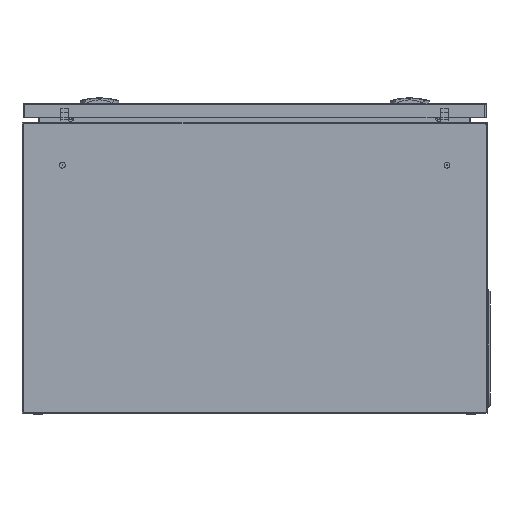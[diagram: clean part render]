
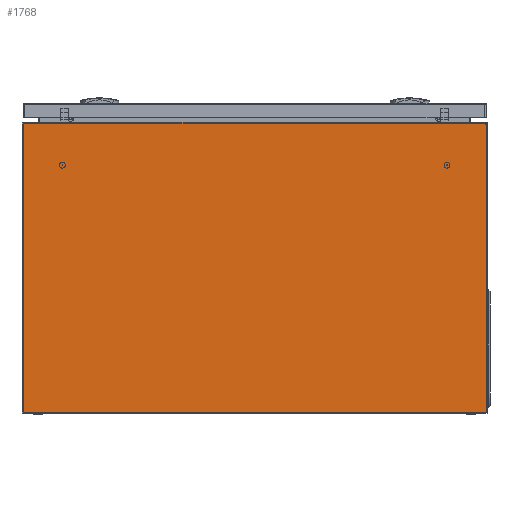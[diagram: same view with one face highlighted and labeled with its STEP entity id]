
A CAD part, left-side view. The second image highlights one B-rep face of the part: STEP entity #1768.
In plain terms, the highlighted planar face has unit normal (-1, 0, 0) as drawn and (1, 0, 0) by its records, which use the part's own axes.
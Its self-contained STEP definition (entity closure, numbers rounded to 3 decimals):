
#1768 = ADVANCED_FACE('',(#1769),#1889,.F.);
#1769 = FACE_BOUND('',#1770,.T.);
#1770 = EDGE_LOOP('',(#1771,#1781,#1789,#1797,#1808,#1816,#1827,#1835,
    #1843,#1851,#1859,#1867,#1875,#1883));
#1771 = ORIENTED_EDGE('',*,*,#1772,.F.);
#1772 = EDGE_CURVE('',#1773,#1775,#1777,.T.);
#1773 = VERTEX_POINT('',#1774);
#1774 = CARTESIAN_POINT('',(300.,371.1,300.));
#1775 = VERTEX_POINT('',#1776);
#1776 = CARTESIAN_POINT('',(300.,371.1,297.829));
#1777 = LINE('',#1778,#1779);
#1778 = CARTESIAN_POINT('',(300.,371.1,-3300.));
#1779 = VECTOR('',#1780,1.);
#1780 = DIRECTION('',(0.,0.,-1.));
#1781 = ORIENTED_EDGE('',*,*,#1782,.F.);
#1782 = EDGE_CURVE('',#1783,#1773,#1785,.T.);
#1783 = VERTEX_POINT('',#1784);
#1784 = CARTESIAN_POINT('',(300.,0.6,
    300.));
#1785 = LINE('',#1786,#1787);
#1786 = CARTESIAN_POINT('',(300.,0.6,
    300.));
#1787 = VECTOR('',#1788,1.);
#1788 = DIRECTION('',(0.,1.,0.));
#1789 = ORIENTED_EDGE('',*,*,#1790,.F.);
#1790 = EDGE_CURVE('',#1791,#1783,#1793,.T.);
#1791 = VERTEX_POINT('',#1792);
#1792 = CARTESIAN_POINT('',(300.,0.6,
    298.429));
#1793 = LINE('',#1794,#1795);
#1794 = CARTESIAN_POINT('',(300.,0.6,
    298.429));
#1795 = VECTOR('',#1796,1.);
#1796 = DIRECTION('',(0.,0.,1.));
#1797 = ORIENTED_EDGE('',*,*,#1798,.T.);
#1798 = EDGE_CURVE('',#1791,#1799,#1801,.T.);
#1799 = VERTEX_POINT('',#1800);
#1800 = CARTESIAN_POINT('',(300.,-1.5,
    298.165));
#1801 = B_SPLINE_CURVE_WITH_KNOTS('',3,(#1802,#1803,#1804,#1805,#1806,
    #1807),.UNSPECIFIED.,.F.,.F.,(4,2,4),(0.006,
    0.007,0.008),.UNSPECIFIED.);
#1802 = CARTESIAN_POINT('',(300.,0.6,
    298.429));
#1803 = CARTESIAN_POINT('',(300.,0.252,
    298.373));
#1804 = CARTESIAN_POINT('',(300.,-0.097,
    298.318));
#1805 = CARTESIAN_POINT('',(300.,-0.797,
    298.228));
#1806 = CARTESIAN_POINT('',(300.,-1.148,
    298.193));
#1807 = CARTESIAN_POINT('',(300.,-1.5,
    298.165));
#1808 = ORIENTED_EDGE('',*,*,#1809,.F.);
#1809 = EDGE_CURVE('',#1810,#1799,#1812,.T.);
#1810 = VERTEX_POINT('',#1811);
#1811 = CARTESIAN_POINT('',(300.,-1.5,
    -298.165));
#1812 = LINE('',#1813,#1814);
#1813 = CARTESIAN_POINT('',(300.,-1.5,-3300.));
#1814 = VECTOR('',#1815,1.);
#1815 = DIRECTION('',(0.,0.,1.));
#1816 = ORIENTED_EDGE('',*,*,#1817,.F.);
#1817 = EDGE_CURVE('',#1818,#1810,#1820,.T.);
#1818 = VERTEX_POINT('',#1819);
#1819 = CARTESIAN_POINT('',(300.,0.6,
    -298.429));
#1820 = B_SPLINE_CURVE_WITH_KNOTS('',3,(#1821,#1822,#1823,#1824,#1825,
    #1826),.UNSPECIFIED.,.F.,.F.,(4,2,4),(0.005,
    0.006,0.008),.UNSPECIFIED.);
#1821 = CARTESIAN_POINT('',(300.,0.6,
    -298.429));
#1822 = CARTESIAN_POINT('',(300.,0.252,
    -298.373));
#1823 = CARTESIAN_POINT('',(300.,-0.097,
    -298.318));
#1824 = CARTESIAN_POINT('',(300.,-0.797,
    -298.228));
#1825 = CARTESIAN_POINT('',(300.,-1.148,
    -298.193));
#1826 = CARTESIAN_POINT('',(300.,-1.5,
    -298.165));
#1827 = ORIENTED_EDGE('',*,*,#1828,.T.);
#1828 = EDGE_CURVE('',#1818,#1829,#1831,.T.);
#1829 = VERTEX_POINT('',#1830);
#1830 = CARTESIAN_POINT('',(300.,0.6,
    -300.));
#1831 = LINE('',#1832,#1833);
#1832 = CARTESIAN_POINT('',(300.,0.6,
    -298.429));
#1833 = VECTOR('',#1834,1.);
#1834 = DIRECTION('',(0.,0.,-1.));
#1835 = ORIENTED_EDGE('',*,*,#1836,.T.);
#1836 = EDGE_CURVE('',#1829,#1837,#1839,.T.);
#1837 = VERTEX_POINT('',#1838);
#1838 = CARTESIAN_POINT('',(300.,371.1,-300.));
#1839 = LINE('',#1840,#1841);
#1840 = CARTESIAN_POINT('',(300.,0.6,
    -300.));
#1841 = VECTOR('',#1842,1.);
#1842 = DIRECTION('',(0.,1.,0.));
#1843 = ORIENTED_EDGE('',*,*,#1844,.T.);
#1844 = EDGE_CURVE('',#1837,#1845,#1847,.T.);
#1845 = VERTEX_POINT('',#1846);
#1846 = CARTESIAN_POINT('',(300.,371.1,-297.829));
#1847 = LINE('',#1848,#1849);
#1848 = CARTESIAN_POINT('',(300.,371.1,-3300.));
#1849 = VECTOR('',#1850,1.);
#1850 = DIRECTION('',(0.,0.,1.));
#1851 = ORIENTED_EDGE('',*,*,#1852,.T.);
#1852 = EDGE_CURVE('',#1845,#1853,#1855,.T.);
#1853 = VERTEX_POINT('',#1854);
#1854 = CARTESIAN_POINT('',(300.,371.4,
    -297.829));
#1855 = LINE('',#1856,#1857);
#1856 = CARTESIAN_POINT('',(300.,371.4,
    -297.829));
#1857 = VECTOR('',#1858,1.);
#1858 = DIRECTION('',(0.,1.,0.));
#1859 = ORIENTED_EDGE('',*,*,#1860,.T.);
#1860 = EDGE_CURVE('',#1853,#1861,#1863,.T.);
#1861 = VERTEX_POINT('',#1862);
#1862 = CARTESIAN_POINT('',(300.,373.5,
    -297.829));
#1863 = LINE('',#1864,#1865);
#1864 = CARTESIAN_POINT('',(300.,371.4,
    -297.829));
#1865 = VECTOR('',#1866,1.);
#1866 = DIRECTION('',(0.,1.,0.));
#1867 = ORIENTED_EDGE('',*,*,#1868,.T.);
#1868 = EDGE_CURVE('',#1861,#1869,#1871,.T.);
#1869 = VERTEX_POINT('',#1870);
#1870 = CARTESIAN_POINT('',(300.,373.5,
    297.829));
#1871 = LINE('',#1872,#1873);
#1872 = CARTESIAN_POINT('',(300.,373.5,-3300.));
#1873 = VECTOR('',#1874,1.);
#1874 = DIRECTION('',(0.,0.,1.));
#1875 = ORIENTED_EDGE('',*,*,#1876,.F.);
#1876 = EDGE_CURVE('',#1877,#1869,#1879,.T.);
#1877 = VERTEX_POINT('',#1878);
#1878 = CARTESIAN_POINT('',(300.,371.4,
    297.829));
#1879 = LINE('',#1880,#1881);
#1880 = CARTESIAN_POINT('',(300.,371.4,
    297.829));
#1881 = VECTOR('',#1882,1.);
#1882 = DIRECTION('',(0.,1.,0.));
#1883 = ORIENTED_EDGE('',*,*,#1884,.T.);
#1884 = EDGE_CURVE('',#1877,#1775,#1885,.T.);
#1885 = LINE('',#1886,#1887);
#1886 = CARTESIAN_POINT('',(300.,371.4,
    297.829));
#1887 = VECTOR('',#1888,1.);
#1888 = DIRECTION('',(0.,-1.,0.));
#1889 = PLANE('',#1890);
#1890 = AXIS2_PLACEMENT_3D('',#1891,#1892,#1893);
#1891 = CARTESIAN_POINT('',(300.,371.4,-3300.));
#1892 = DIRECTION('',(-1.,0.,0.));
#1893 = DIRECTION('',(0.,-1.,0.));
